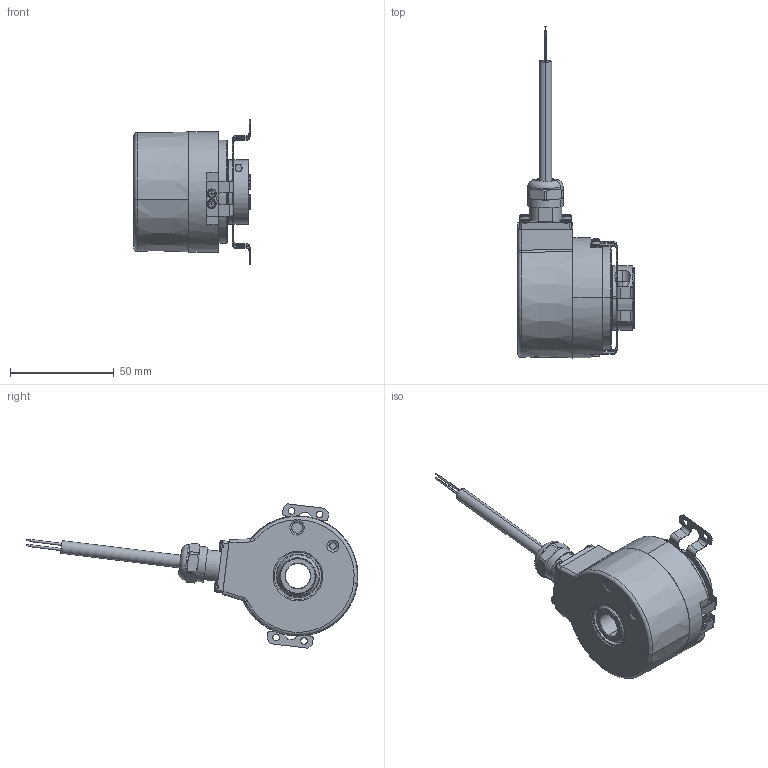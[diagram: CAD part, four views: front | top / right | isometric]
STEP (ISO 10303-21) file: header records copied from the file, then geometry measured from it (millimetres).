
FILE_DESCRIPTION (( 'STEP AP214' ), '1' );
FILE_NAME ('5834SIL.B4X2.XXXX.STEP', '2010-11-18T13:02:53', ( 'admin' ), ( 'Fritz Kübler GmbH' ), 'SwSTEP 2.0', 'SolidWorks 2009', '' );
FILE_SCHEMA (( 'AUTOMOTIVE_DESIGN' ));
Length unit declared in the file: millimetre
Products named in the file (1): 5834SIL.B4X2.XXXX
Bounding box: 56 x 160.21 x 69.69 mm (x, y, z)
Surface area: 28559.5 mm2 (no closed solid volume)
Topology: 0 solids, 22 shells, 491 faces, 1365 edges, 886 vertices
Faces by surface type: plane 235, cylinder 149, cone 64, torus 28, sphere 8, bspline 7
Entity records: 22439 total; most frequent: CARTESIAN_POINT 4284, DIRECTION 2801, ORIENTED_EDGE 2443, EDGE_CURVE 1365, AXIS2_PLACEMENT_3D 1049, VERTEX_POINT 886, VECTOR 703, LINE 703
